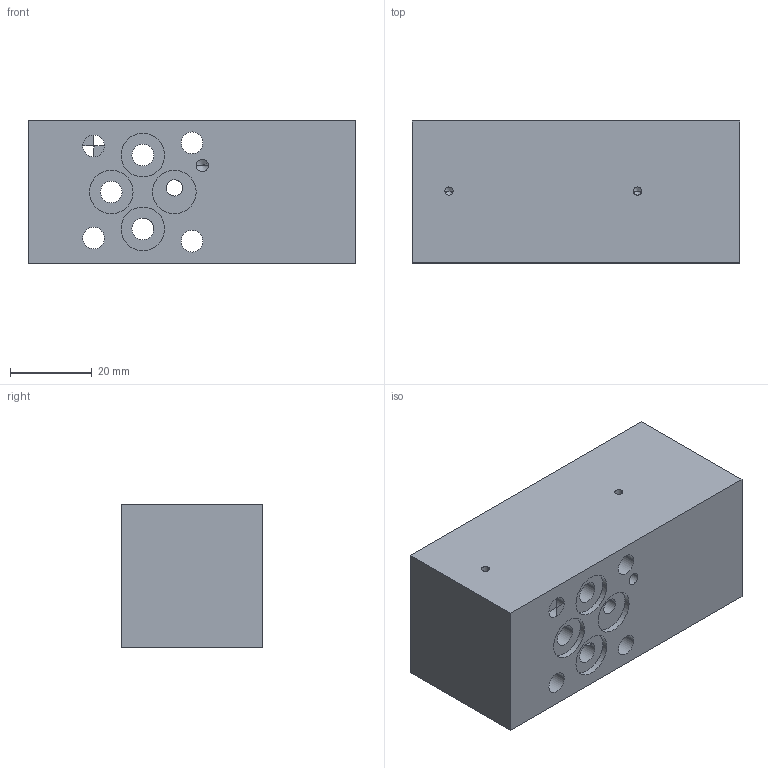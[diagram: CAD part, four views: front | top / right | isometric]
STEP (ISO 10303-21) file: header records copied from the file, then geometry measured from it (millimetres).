
FILE_DESCRIPTION((''),'2;1');
FILE_NAME('1000189733','2023-10-12T',('l.soukupova'),(''),'PRO/ENGINEER BY PARAMETRIC TECHNOLOGY CORPORATION, 2015440','PRO/ENGINEER BY PARAMETRIC TECHNOLOGY CORPORATION, 2015440','');
FILE_SCHEMA(('AUTOMOTIVE_DESIGN { 1 0 10303 214 1 1 1 1 }'));
Length unit declared in the file: millimetre
Products named in the file (1): 1000189733
Bounding box: 80 x 34.6 x 35 mm (x, y, z)
Volume: 77513 mm3; surface area: 22297 mm2
Topology: 1 solids, 4 shells, 98 faces, 417 edges, 383 vertices
Faces by surface type: cylinder 59, cone 25, plane 14
Entity records: 6956 total; most frequent: CARTESIAN_POINT 1773, DIRECTION 713, ORIENTED_EDGE 508, PRESENTATION_STYLE_ASSIGNMENT 492, STYLED_ITEM 457, CURVE_STYLE 454, EDGE_CURVE 260, AXIS2_PLACEMENT_3D 246
